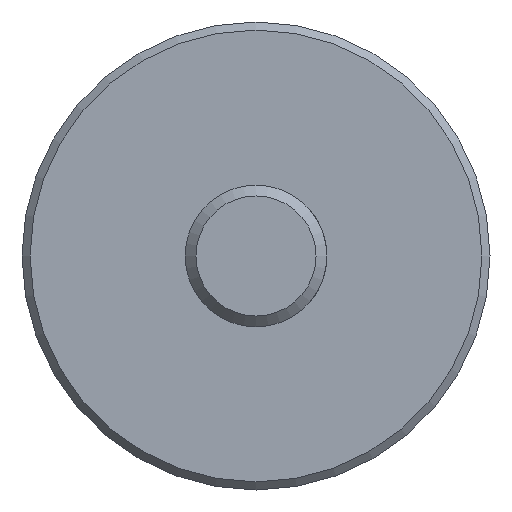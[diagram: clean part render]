
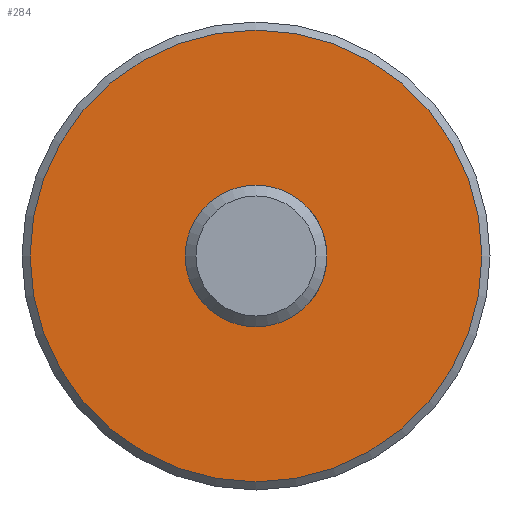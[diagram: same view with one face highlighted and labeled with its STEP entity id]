
A CAD part, front view. The second image highlights one B-rep face of the part: STEP entity #284.
In plain terms, the highlighted planar face has unit normal (0, -1, 0).
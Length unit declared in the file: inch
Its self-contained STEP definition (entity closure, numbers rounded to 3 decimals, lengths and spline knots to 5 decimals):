
#8 = PLANE ( 'NONE',  #529 ) ;
#57 = CIRCLE ( 'NONE', #132, 1.255 ) ;
#116 = EDGE_CURVE ( 'NONE', #376, #376, #368, .T. ) ;
#124 = ORIENTED_EDGE ( 'NONE', *, *, #153, .F. ) ;
#129 = ORIENTED_EDGE ( 'NONE', *, *, #116, .T. ) ;
#132 = AXIS2_PLACEMENT_3D ( 'NONE', #352, #139, #393 ) ;
#137 = DIRECTION ( 'NONE',  ( 0., 1., 0. ) ) ;
#139 = DIRECTION ( 'NONE',  ( 0., 1., 0. ) ) ;
#146 = CARTESIAN_POINT ( 'NONE',  ( 0., 3.33, 1.255 ) ) ;
#147 = DIRECTION ( 'NONE',  ( 0., 1., 0. ) ) ;
#153 = EDGE_CURVE ( 'NONE', #225, #225, #57, .T. ) ;
#178 = CARTESIAN_POINT ( 'NONE',  ( 0., 3.33, 0. ) ) ;
#195 = EDGE_LOOP ( 'NONE', ( #124 ) ) ;
#225 = VERTEX_POINT ( 'NONE', #146 ) ;
#271 = CARTESIAN_POINT ( 'NONE',  ( 0.3937, 3.33, 0. ) ) ;
#284 = ADVANCED_FACE ( 'NONE', ( #445, #401 ), #8, .F. ) ;
#321 = AXIS2_PLACEMENT_3D ( 'NONE', #178, #137, #457 ) ;
#352 = CARTESIAN_POINT ( 'NONE',  ( 0., 3.33, 0. ) ) ;
#368 = CIRCLE ( 'NONE', #321, 0.3937 ) ;
#376 = VERTEX_POINT ( 'NONE', #561 ) ;
#393 = DIRECTION ( 'NONE',  ( 0., 0., 1. ) ) ;
#401 = FACE_BOUND ( 'NONE', #511, .T. ) ;
#445 = FACE_OUTER_BOUND ( 'NONE', #195, .T. ) ;
#457 = DIRECTION ( 'NONE',  ( 0., 0., 1. ) ) ;
#511 = EDGE_LOOP ( 'NONE', ( #129 ) ) ;
#529 = AXIS2_PLACEMENT_3D ( 'NONE', #271, #147, #557 ) ;
#557 = DIRECTION ( 'NONE',  ( 0., 0., 1. ) ) ;
#561 = CARTESIAN_POINT ( 'NONE',  ( 0., 3.33, 0.3937 ) ) ;
